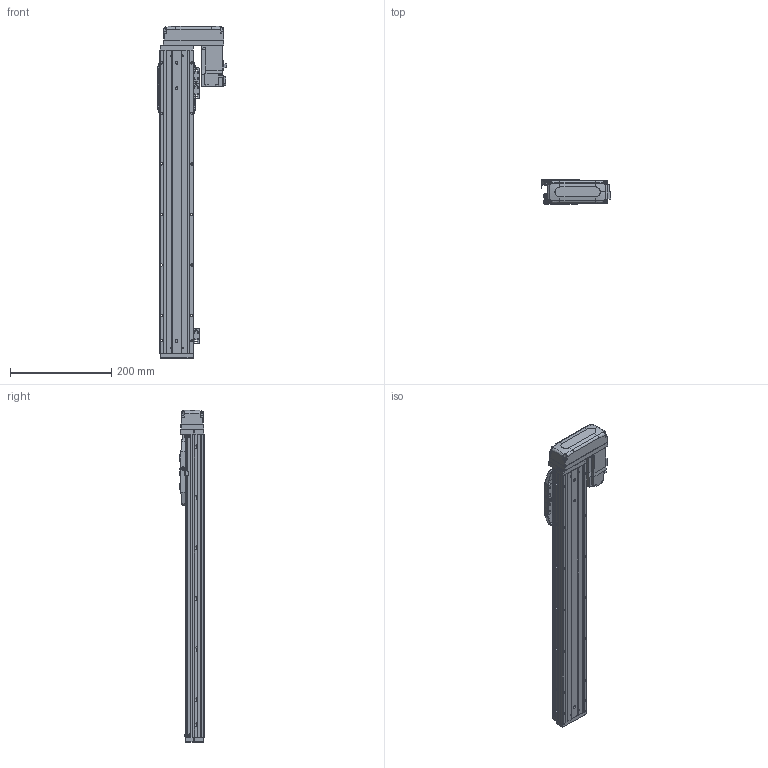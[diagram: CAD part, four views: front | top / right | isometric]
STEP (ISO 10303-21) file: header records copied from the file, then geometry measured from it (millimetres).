
FILE_DESCRIPTION (( 'STEP AP203' ), '1' );
FILE_NAME ('CTHA60-450-BL-M10-C4L.step', '2022-03-19T06:14:14', ( '微软用户' ), ( '微软中国' ), 'SwSTEP 2.0', 'SolidWorks 2020', '' );
FILE_SCHEMA (( 'CONFIG_CONTROL_DESIGN' ));
Length unit declared in the file: millimetre
Products named in the file (18): GB¨uT 70.2-M3¡Á6_M3¡Á6; GBT 70.3-M3℅6; EE_SX911P_R; CTHA60-016; CTHA60-017; CTHA60-450-BL-M10-C4L; HG-KR13（三菱）; CTHA60-021; CTHA60-002; CTHA60-001_600; GBT 70.1-M4×16; CTHA60-031; CTHA60-004; GBT77-2000 M3×3; CTHA60-006-1; CTHA60-005; GBT 70.1-M3℅6; CTHA60-033
Assembly tree (54 placements, depth 2):
  CTHA60-450-BL-M10-C4L
    CTHA60-001_600
    CTHA60-004
    CTHA60-005
    GB¨uT 70.2-M3¡Á6_M3¡Á6  x10
    EE_SX911P_R  x3
    CTHA60-017  x3
    CTHA60-021  x2
    GBT 70.1-M4×16  x10
    GBT77-2000 M3×3  x6
    GBT 70.1-M3℅6  x6
    GBT 70.3-M3℅6  x4
    CTHA60-016  x2
    HG-KR13（三菱）
    CTHA60-002
    CTHA60-031
    CTHA60-006-1
    CTHA60-033
Bounding box: 137.1 x 48 x 657 mm (x, y, z)
Volume: 1188559.7 mm3; surface area: 363735.8 mm2
Topology: 56 solids, 56 shells, 2514 faces, 6037 edges, 3721 vertices
Faces by surface type: plane 1449, cylinder 577, cone 340, torus 92, bspline 32, sphere 24
Entity records: 45011 total; most frequent: CARTESIAN_POINT 8698, DIRECTION 6946, ORIENTED_EDGE 6882, EDGE_CURVE 3441, VECTOR 2442, LINE 2442, AXIS2_PLACEMENT_3D 2252, VERTEX_POINT 2180
